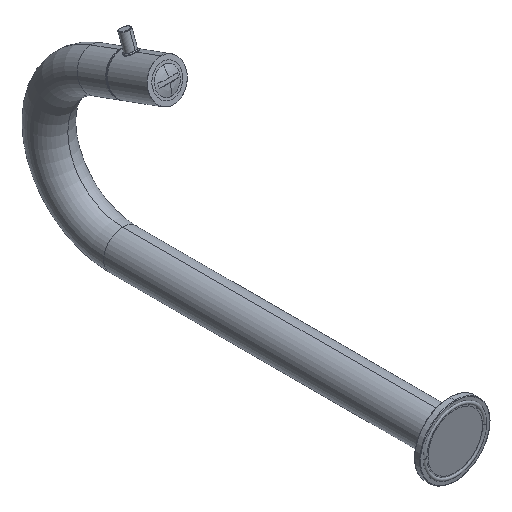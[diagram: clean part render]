
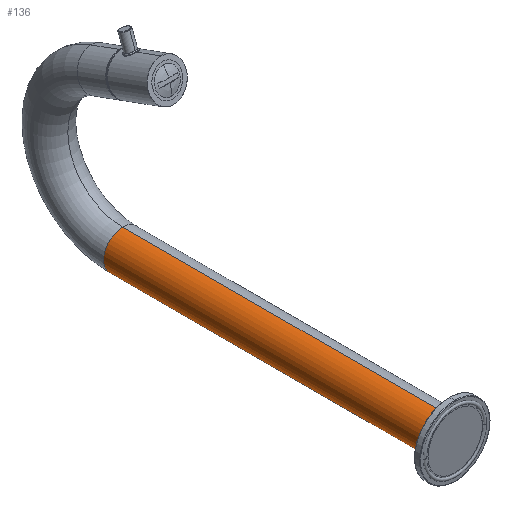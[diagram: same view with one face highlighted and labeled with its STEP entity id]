
A CAD part, isometric view. The second image highlights one B-rep face of the part: STEP entity #136.
In plain terms, the highlighted cylindrical face has radius 13 mm (diameter 26 mm), a partial arc.
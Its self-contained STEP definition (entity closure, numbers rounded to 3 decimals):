
#6=DIRECTION('',(0.,1.,0.));
#7=VECTOR('',#6,221.486);
#8=CARTESIAN_POINT('',(0.,0.,13.));
#9=LINE('',#8,#7);
#10=CARTESIAN_POINT('',(0.,0.,0.));
#11=DIRECTION('',(0.,-1.,0.));
#12=DIRECTION('',(0.,0.,1.));
#13=AXIS2_PLACEMENT_3D('',#10,#11,#12);
#15=DIRECTION('',(0.,1.,0.));
#16=VECTOR('',#15,221.486);
#17=CARTESIAN_POINT('',(0.,0.,-13.));
#18=LINE('',#17,#16);
#19=CARTESIAN_POINT('',(0.,221.486,0.));
#20=DIRECTION('',(0.,1.,0.));
#21=DIRECTION('',(0.,0.,-1.));
#22=AXIS2_PLACEMENT_3D('',#19,#20,#21);
#87=CARTESIAN_POINT('',(0.,0.,13.));
#88=CARTESIAN_POINT('',(0.,0.,-13.));
#89=VERTEX_POINT('',#87);
#90=VERTEX_POINT('',#88);
#91=CARTESIAN_POINT('',(0.,221.486,13.));
#92=CARTESIAN_POINT('',(0.,221.486,-13.));
#93=VERTEX_POINT('',#91);
#94=VERTEX_POINT('',#92);
#123=CARTESIAN_POINT('',(0.,0.,0.));
#124=DIRECTION('',(0.,1.,0.));
#125=DIRECTION('',(0.,0.,1.));
#126=AXIS2_PLACEMENT_3D('',#123,#124,#125);
#127=CYLINDRICAL_SURFACE('',#126,13.);
#129=ORIENTED_EDGE('',*,*,#128,.T.);
#130=ORIENTED_EDGE('',*,*,#118,.T.);
#132=ORIENTED_EDGE('',*,*,#131,.T.);
#133=ORIENTED_EDGE('',*,*,#114,.F.);
#134=EDGE_LOOP('',(#129,#130,#132,#133));
#135=FACE_OUTER_BOUND('',#134,.F.);
#136=ADVANCED_FACE('',(#135),#127,.T.);
#14=CIRCLE('',#13,13.);
#23=CIRCLE('',#22,13.);
#114=EDGE_CURVE('',#89,#93,#9,.T.);
#118=EDGE_CURVE('',#90,#94,#18,.T.);
#128=EDGE_CURVE('',#89,#90,#14,.T.);
#131=EDGE_CURVE('',#94,#93,#23,.T.);
